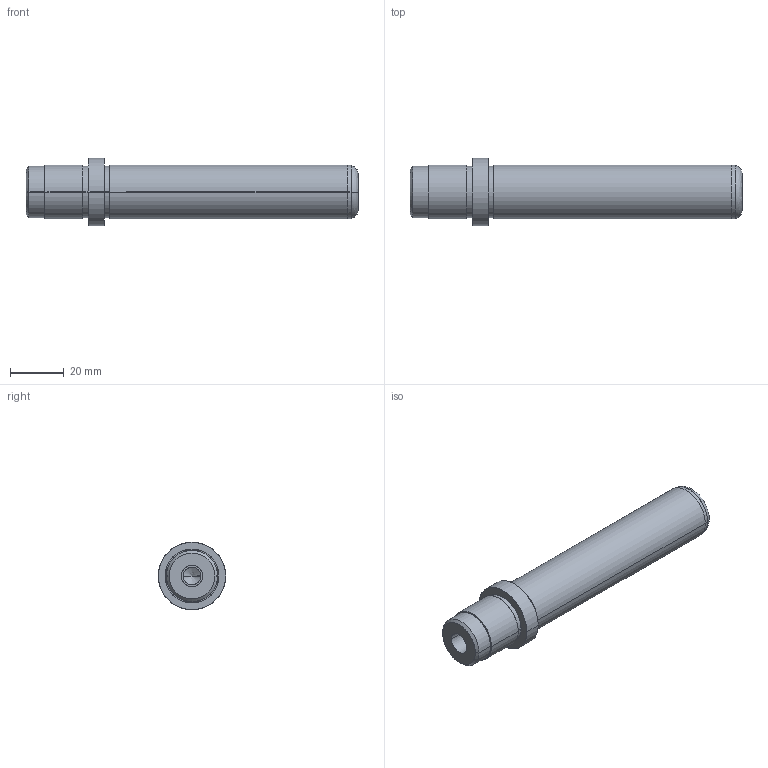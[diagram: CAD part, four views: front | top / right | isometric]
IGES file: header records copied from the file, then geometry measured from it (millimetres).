
Start section: SolidWorks IGES FILE using analytic representation for surfaces
Global section: file name: D:\zzzzz\Delta\D06\20\D06 - 20x100x23.IGS; native system: SolidWorks 2004 by SolidWorks Corporation; preprocessor: Version 5.3; author: Hkn; date: 080327.150255; units: millimetre
Bounding box: 123 x 25 x 25 mm (x, y, z)
Surface area: 9950.3 mm2 (no closed solid volume)
Topology: 0 solids, 0 shells, 39 faces, 696 edges, 692 vertices
Faces by surface type: revolution 28, bspline 11
